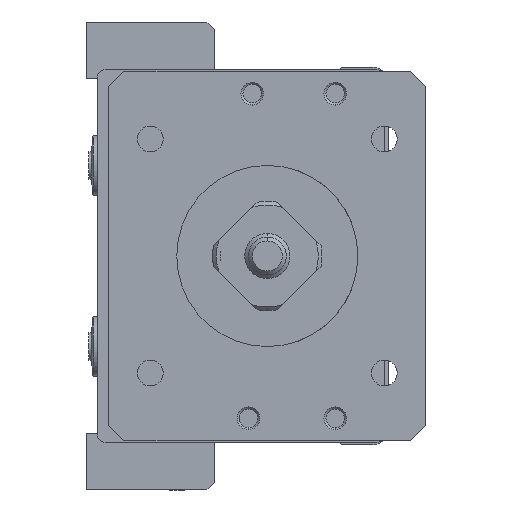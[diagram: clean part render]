
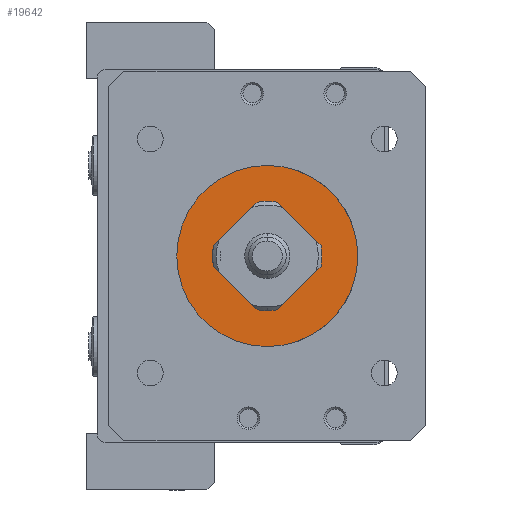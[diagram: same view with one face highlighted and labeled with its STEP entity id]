
A CAD part, left-side view. The second image highlights one B-rep face of the part: STEP entity #19642.
In plain terms, the highlighted planar face has unit normal (-1, 0, 0).
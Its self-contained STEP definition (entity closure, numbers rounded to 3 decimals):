
#573 = CARTESIAN_POINT ( 'NONE',  ( -14., 0., -12. ) ) ;
#574 = CARTESIAN_POINT ( 'NONE',  ( -14., -11.619, -3. ) ) ;
#581 = CARTESIAN_POINT ( 'NONE',  ( -14., -11.619, 3. ) ) ;
#582 = CARTESIAN_POINT ( 'NONE',  ( -14., 0., 12. ) ) ;
#918 = CARTESIAN_POINT ( 'NONE',  ( -14., 0., -15. ) ) ;
#919 = CARTESIAN_POINT ( 'NONE',  ( -14., 12.5, -15. ) ) ;
#920 = CARTESIAN_POINT ( 'NONE',  ( -14., 12.5, 15. ) ) ;
#921 = CARTESIAN_POINT ( 'NONE',  ( -14., 0., 15. ) ) ;
#924 = CARTESIAN_POINT ( 'NONE',  ( -14., 12.5, 14. ) ) ;
#925 = CARTESIAN_POINT ( 'NONE',  ( -14., 22.5, 14. ) ) ;
#934 = CARTESIAN_POINT ( 'NONE',  ( -14., -15.5, -3. ) ) ;
#935 = CARTESIAN_POINT ( 'NONE',  ( -14., -15.5, 3. ) ) ;
#938 = CARTESIAN_POINT ( 'NONE',  ( -14., 22.5, -14. ) ) ;
#939 = CARTESIAN_POINT ( 'NONE',  ( -14., 12.5, -14. ) ) ;
#1027 = CARTESIAN_POINT ( 'NONE',  ( -14., 0., -5.8 ) ) ;
#1028 = CARTESIAN_POINT ( 'NONE',  ( -14., 0., 5.8 ) ) ;
#2401 = FACE_OUTER_BOUND ( 'NONE', #7885, .T. ) ;
#2424 = FACE_BOUND ( 'NONE', #7886, .T. ) ;
#3632 = EDGE_CURVE ( 'NONE', #12715, #12713, #5556, .T. ) ;
#3636 = EDGE_CURVE ( 'NONE', #12741, #12738, #5550, .T. ) ;
#3637 = EDGE_CURVE ( 'NONE', #12705, #11213, #5547, .T. ) ;
#3638 = EDGE_CURVE ( 'NONE', #12703, #12705, #5545, .T. ) ;
#3639 = EDGE_CURVE ( 'NONE', #12713, #12703, #5543, .T. ) ;
#3640 = EDGE_CURVE ( 'NONE', #12748, #12715, #5541, .T. ) ;
#3641 = EDGE_CURVE ( 'NONE', #12701, #12751, #5539, .T. ) ;
#3642 = EDGE_CURVE ( 'NONE', #12701, #12698, #5537, .T. ) ;
#3643 = EDGE_CURVE ( 'NONE', #11204, #12698, #5535, .T. ) ;
#5534 = VECTOR ( 'NONE', #13072, 1000. ) ;
#5535 = LINE ( 'NONE', #13073, #5534 ) ;
#5536 = VECTOR ( 'NONE', #13075, 1000. ) ;
#5537 = LINE ( 'NONE', #13077, #5536 ) ;
#5538 = VECTOR ( 'NONE', #13079, 1000. ) ;
#5539 = LINE ( 'NONE', #13080, #5538 ) ;
#5540 = VECTOR ( 'NONE', #13082, 1000. ) ;
#5541 = LINE ( 'NONE', #13084, #5540 ) ;
#5542 = VECTOR ( 'NONE', #13086, 1000. ) ;
#5543 = LINE ( 'NONE', #13087, #5542 ) ;
#5544 = VECTOR ( 'NONE', #13089, 1000. ) ;
#5545 = LINE ( 'NONE', #13091, #5544 ) ;
#5546 = VECTOR ( 'NONE', #13093, 1000. ) ;
#5547 = LINE ( 'NONE', #13094, #5546 ) ;
#5548 = VECTOR ( 'NONE', #13096, 1000. ) ;
#5550 = LINE ( 'NONE', #13097, #5548 ) ;
#5554 = VECTOR ( 'NONE', #13111, 1000. ) ;
#5556 = LINE ( 'NONE', #13112, #5554 ) ;
#6570 = ORIENTED_EDGE ( 'NONE', *, *, #23101, .T. ) ;
#6571 = ORIENTED_EDGE ( 'NONE', *, *, #3643, .F. ) ;
#6572 = ORIENTED_EDGE ( 'NONE', *, *, #3642, .T. ) ;
#6573 = ORIENTED_EDGE ( 'NONE', *, *, #3641, .F. ) ;
#6574 = ORIENTED_EDGE ( 'NONE', *, *, #23395, .F. ) ;
#6575 = ORIENTED_EDGE ( 'NONE', *, *, #3640, .F. ) ;
#6576 = ORIENTED_EDGE ( 'NONE', *, *, #3632, .F. ) ;
#6577 = ORIENTED_EDGE ( 'NONE', *, *, #3639, .F. ) ;
#6578 = ORIENTED_EDGE ( 'NONE', *, *, #3638, .F. ) ;
#6579 = ORIENTED_EDGE ( 'NONE', *, *, #3637, .F. ) ;
#6580 = ORIENTED_EDGE ( 'NONE', *, *, #23093, .T. ) ;
#6581 = ORIENTED_EDGE ( 'NONE', *, *, #23411, .F. ) ;
#6582 = ORIENTED_EDGE ( 'NONE', *, *, #3636, .F. ) ;
#6583 = ORIENTED_EDGE ( 'NONE', *, *, #23413, .F. ) ;
#6584 = ORIENTED_EDGE ( 'NONE', *, *, #23229, .F. ) ;
#6585 = ORIENTED_EDGE ( 'NONE', *, *, #23388, .F. ) ;
#7885 = EDGE_LOOP ( 'NONE', ( #6583, #6582, #6581, #6580, #6579, #6578, #6577, #6576, #6575, #6574, #6573, #6572, #6571, #6570 ) ) ;
#7886 = EDGE_LOOP ( 'NONE', ( #6585, #6584 ) ) ;
#9139 = CARTESIAN_POINT ( 'NONE',  ( -14., 0., 0. ) ) ;
#9140 = DIRECTION ( 'NONE',  ( -1., 0., 0. ) ) ;
#9141 = DIRECTION ( 'NONE',  ( 0., 0., -1. ) ) ;
#9213 = CARTESIAN_POINT ( 'NONE',  ( -14., 0., 0. ) ) ;
#9214 = DIRECTION ( 'NONE',  ( -1., 0., 0. ) ) ;
#9215 = DIRECTION ( 'NONE',  ( 0., 0., -1. ) ) ;
#9522 = CARTESIAN_POINT ( 'NONE',  ( -14., 0., 0. ) ) ;
#9523 = DIRECTION ( 'NONE',  ( -1., 0., 0. ) ) ;
#9524 = DIRECTION ( 'NONE',  ( 0., 0., -1. ) ) ;
#10024 = CARTESIAN_POINT ( 'NONE',  ( -14., 0., 0. ) ) ;
#10025 = DIRECTION ( 'NONE',  ( -1., 0., 0. ) ) ;
#10026 = DIRECTION ( 'NONE',  ( 0., 0., -1. ) ) ;
#10462 = CIRCLE ( 'NONE', #22234, 5.8 ) ;
#10469 = LINE ( 'NONE', #23451, #10471 ) ;
#10471 = VECTOR ( 'NONE', #23452, 1000. ) ;
#10490 = LINE ( 'NONE', #23495, #10491 ) ;
#10491 = VECTOR ( 'NONE', #23496, 1000. ) ;
#10492 = LINE ( 'NONE', #23500, #10494 ) ;
#10494 = VECTOR ( 'NONE', #23501, 1000. ) ;
#11204 = VERTEX_POINT ( 'NONE', #573 ) ;
#11205 = VERTEX_POINT ( 'NONE', #574 ) ;
#11212 = VERTEX_POINT ( 'NONE', #581 ) ;
#11213 = VERTEX_POINT ( 'NONE', #582 ) ;
#12698 = VERTEX_POINT ( 'NONE', #918 ) ;
#12701 = VERTEX_POINT ( 'NONE', #919 ) ;
#12703 = VERTEX_POINT ( 'NONE', #920 ) ;
#12705 = VERTEX_POINT ( 'NONE', #921 ) ;
#12713 = VERTEX_POINT ( 'NONE', #924 ) ;
#12715 = VERTEX_POINT ( 'NONE', #925 ) ;
#12738 = VERTEX_POINT ( 'NONE', #934 ) ;
#12741 = VERTEX_POINT ( 'NONE', #935 ) ;
#12748 = VERTEX_POINT ( 'NONE', #938 ) ;
#12751 = VERTEX_POINT ( 'NONE', #939 ) ;
#12984 = VERTEX_POINT ( 'NONE', #1027 ) ;
#12987 = VERTEX_POINT ( 'NONE', #1028 ) ;
#13072 = DIRECTION ( 'NONE',  ( 0., 0., -1. ) ) ;
#13073 = CARTESIAN_POINT ( 'NONE',  ( -14., 0., 0. ) ) ;
#13075 = DIRECTION ( 'NONE',  ( 0., -1., 0. ) ) ;
#13077 = CARTESIAN_POINT ( 'NONE',  ( -14., 0., -15. ) ) ;
#13079 = DIRECTION ( 'NONE',  ( 0., 0., 1. ) ) ;
#13080 = CARTESIAN_POINT ( 'NONE',  ( -14., 12.5, 0. ) ) ;
#13082 = DIRECTION ( 'NONE',  ( 0., 0., 1. ) ) ;
#13084 = CARTESIAN_POINT ( 'NONE',  ( -14., 22.5, -23.7 ) ) ;
#13086 = DIRECTION ( 'NONE',  ( 0., 0., 1. ) ) ;
#13087 = CARTESIAN_POINT ( 'NONE',  ( -14., 12.5, 0. ) ) ;
#13089 = DIRECTION ( 'NONE',  ( 0., -1., 0. ) ) ;
#13091 = CARTESIAN_POINT ( 'NONE',  ( -14., 0., 15. ) ) ;
#13093 = DIRECTION ( 'NONE',  ( 0., 0., -1. ) ) ;
#13094 = CARTESIAN_POINT ( 'NONE',  ( -14., 0., 0. ) ) ;
#13096 = DIRECTION ( 'NONE',  ( 0., 0., -1. ) ) ;
#13097 = CARTESIAN_POINT ( 'NONE',  ( -14., -15.5, -5. ) ) ;
#13111 = DIRECTION ( 'NONE',  ( 0., -1., 0. ) ) ;
#13112 = CARTESIAN_POINT ( 'NONE',  ( -14., 6., 14. ) ) ;
#15283 = AXIS2_PLACEMENT_3D ( 'NONE', #18272, #18273, #18274 ) ;
#18271 = PLANE ( 'NONE',  #15283 ) ;
#18272 = CARTESIAN_POINT ( 'NONE',  ( -14., 6., 0. ) ) ;
#18273 = DIRECTION ( 'NONE',  ( 1., 0., 0. ) ) ;
#18274 = DIRECTION ( 'NONE',  ( 0., 0., -1. ) ) ;
#19642 = ADVANCED_FACE ( 'NONE', ( #2424, #2401 ), #18271, .F. ) ;
#21703 = CIRCLE ( 'NONE', #22106, 12. ) ;
#21709 = CIRCLE ( 'NONE', #22108, 12. ) ;
#21912 = CIRCLE ( 'NONE', #22161, 5.8 ) ;
#22106 = AXIS2_PLACEMENT_3D ( 'NONE', #9139, #9140, #9141 ) ;
#22108 = AXIS2_PLACEMENT_3D ( 'NONE', #9213, #9214, #9215 ) ;
#22161 = AXIS2_PLACEMENT_3D ( 'NONE', #9522, #9523, #9524 ) ;
#22234 = AXIS2_PLACEMENT_3D ( 'NONE', #10024, #10025, #10026 ) ;
#23093 = EDGE_CURVE ( 'NONE', #11212, #11213, #21703, .T. ) ;
#23101 = EDGE_CURVE ( 'NONE', #11204, #11205, #21709, .T. ) ;
#23229 = EDGE_CURVE ( 'NONE', #12987, #12984, #21912, .T. ) ;
#23388 = EDGE_CURVE ( 'NONE', #12984, #12987, #10462, .T. ) ;
#23395 = EDGE_CURVE ( 'NONE', #12751, #12748, #10469, .T. ) ;
#23411 = EDGE_CURVE ( 'NONE', #11212, #12741, #10490, .T. ) ;
#23413 = EDGE_CURVE ( 'NONE', #12738, #11205, #10492, .T. ) ;
#23451 = CARTESIAN_POINT ( 'NONE',  ( -14., 6., -14. ) ) ;
#23452 = DIRECTION ( 'NONE',  ( 0., 1., 0. ) ) ;
#23495 = CARTESIAN_POINT ( 'NONE',  ( -14., 6., 3. ) ) ;
#23496 = DIRECTION ( 'NONE',  ( 0., -1., 0. ) ) ;
#23500 = CARTESIAN_POINT ( 'NONE',  ( -14., 6., -3. ) ) ;
#23501 = DIRECTION ( 'NONE',  ( 0., 1., 0. ) ) ;
